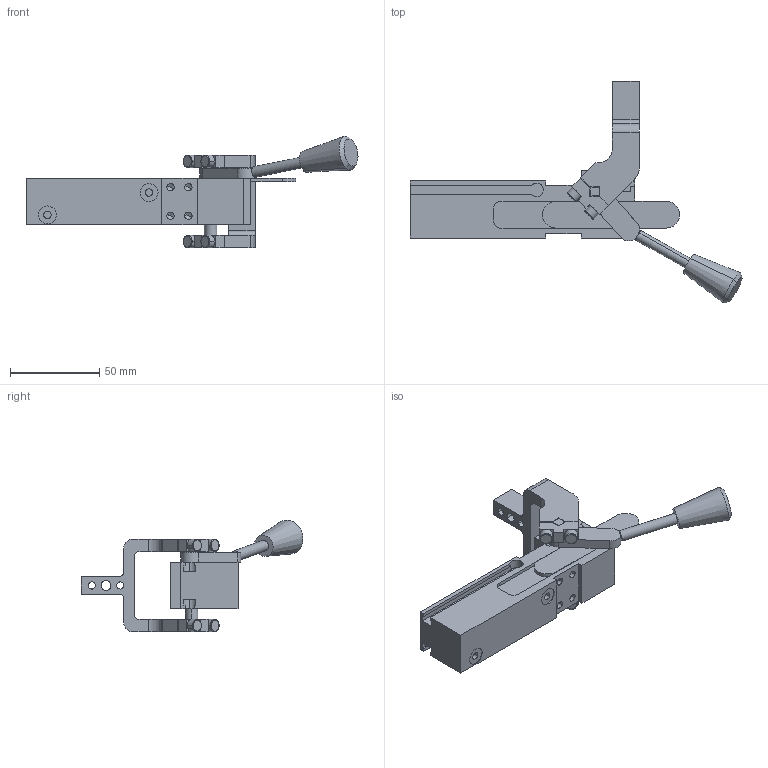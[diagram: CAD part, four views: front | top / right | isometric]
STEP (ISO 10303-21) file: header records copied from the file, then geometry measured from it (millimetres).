
FILE_DESCRIPTION(('CATIA V5 STEP Exchange'),'2;1');
FILE_NAME('G:\Konstruktion\Modelle\K_16_1_ZL_A18_T03_TUENKERS.stp','2018-03-19T12:26:01+00:00',('none'),('none'),'CATIA Version 5 Release 19 SP 9 (IN-10)','CATIA V5 STEP AP214','none');
FILE_SCHEMA(('AUTOMOTIVE_DESIGN { 1 0 10303 214 1 1 1 1 }'));
Length unit declared in the file: millimetre
Products named in the file (1): K_16_1_ZL_A18_T03_TUENKERS
Bounding box: 186.09 x 124.42 x 62.63 mm (x, y, z)
Volume: 129809.2 mm3; surface area: 34973.8 mm2
Topology: 2 solids, 2 shells, 284 faces, 745 edges, 460 vertices
Faces by surface type: plane 177, cylinder 67, cone 30, torus 8, extrusion 2
Entity records: 9297 total; most frequent: CARTESIAN_POINT 1506, ORIENTED_EDGE 1458, DIRECTION 1056, EDGE_CURVE 729, VECTOR 493, LINE 491, VERTEX_POINT 460, AXIS2_PLACEMENT_3D 382
